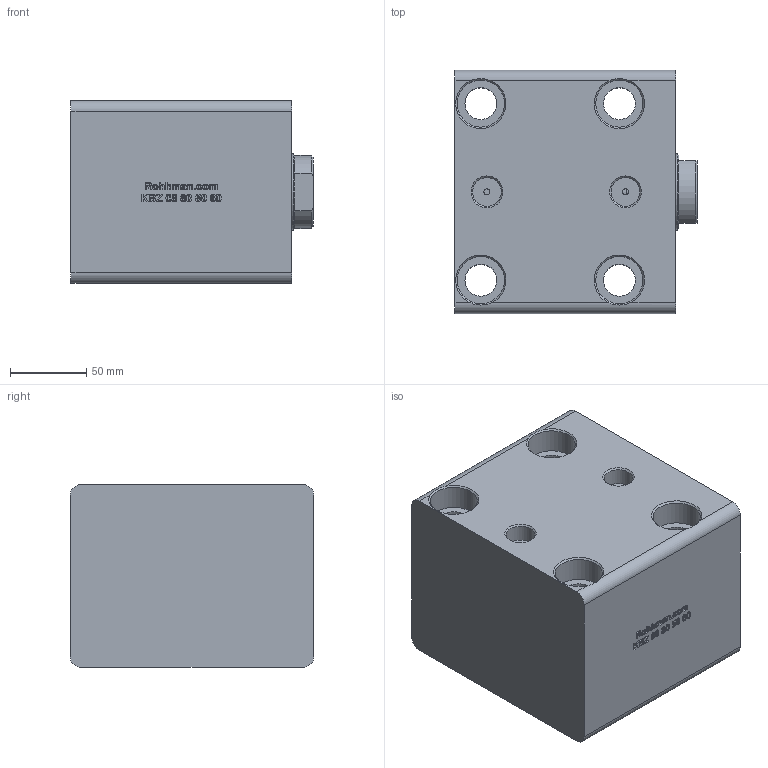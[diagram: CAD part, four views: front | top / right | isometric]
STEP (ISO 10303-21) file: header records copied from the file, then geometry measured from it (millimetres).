
FILE_DESCRIPTION(/* description */ (''),/* implementation_level */ '2;1');
FILE_NAME(/* name */ 'KBZ_08_80_50_60_WEB.step',/* time_stamp */ '2023-09-05T16:48:43+03:00',/* author */ (''),/* organization */ (''),/* preprocessor_version */ 'ST-DEVELOPER v20',/* originating_system */ 'Autodesk Translation Framework v12.9.0.99',/* authorisation */ '');
FILE_SCHEMA (('AUTOMOTIVE_DESIGN { 1 0 10303 214 3 1 1 }'));
Length unit declared in the file: millimetre
Products named in the file (6): KBZ_08_80_50_100_MONTAJ; KAPAK; KAPAK_1; GÖVDE; GÖVDE_1; Ø50_MİL
Assembly tree (5 placements, depth 3):
  KBZ_08_80_50_100_MONTAJ
    KAPAK
      KAPAK_1
    GÖVDE
      GÖVDE_1
    Ø50_MİL
Bounding box: 159 x 160 x 120 mm (x, y, z)
Volume: 2337117.1 mm3; surface area: 216382.2 mm2
Topology: 3 solids, 3 shells, 591 faces, 1601 edges, 1061 vertices
Faces by surface type: bspline 373, plane 172, cylinder 28, cone 18
Full cylindrical faces by diameter (mm): 4 x2, 5 x2, 18.901 x2, 21 x4, 26.491 x1, 31 x4, 50 x1, 50.5 x1, 80 x1, 85 x2, 100 x2
Entity records: 22237 total; most frequent: CARTESIAN_POINT 9692, ORIENTED_EDGE 3202, EDGE_CURVE 1601, DIRECTION 1384, VERTEX_POINT 1061, LINE 762, VECTOR 762, B_SPLINE_CURVE_WITH_KNOTS 754
